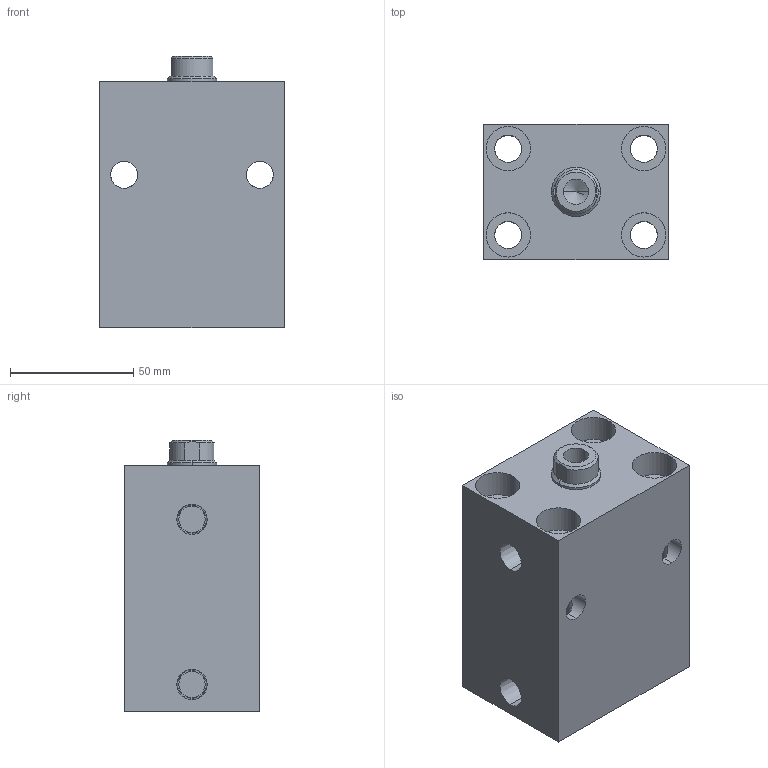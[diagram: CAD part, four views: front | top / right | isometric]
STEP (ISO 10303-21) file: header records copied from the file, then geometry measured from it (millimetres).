
FILE_DESCRIPTION (( 'STEP AP203' ), '1' );
FILE_NAME ('HBC-32D-50N装配体.STEP', '2019-11-29T08:55:25', ( '微软用户' ), ( '微软中国' ), 'SwSTEP 2.0', 'SolidWorks 2012', '' );
FILE_SCHEMA (( 'CONFIG_CONTROL_DESIGN' ));
Length unit declared in the file: millimetre
Products named in the file (3): HBC-32D-50N掛极; HBC-32D-50N活塞杆; HBC-32D-50N蚾饜极
Assembly tree (2 placements, depth 2):
  HBC-32D-50N蚾饜极
    HBC-32D-50N掛极
    HBC-32D-50N活塞杆
Bounding box: 75 x 55 x 110 mm (x, y, z)
Volume: 334141.3 mm3; surface area: 68775 mm2
Topology: 2 solids, 2 shells, 85 faces, 202 edges, 123 vertices
Faces by surface type: cylinder 52, plane 23, cone 10
Entity records: 2793 total; most frequent: CARTESIAN_POINT 533, DIRECTION 430, ORIENTED_EDGE 400, EDGE_CURVE 200, AXIS2_PLACEMENT_3D 176, VERTEX_POINT 123, EDGE_LOOP 109, CIRCLE 86
